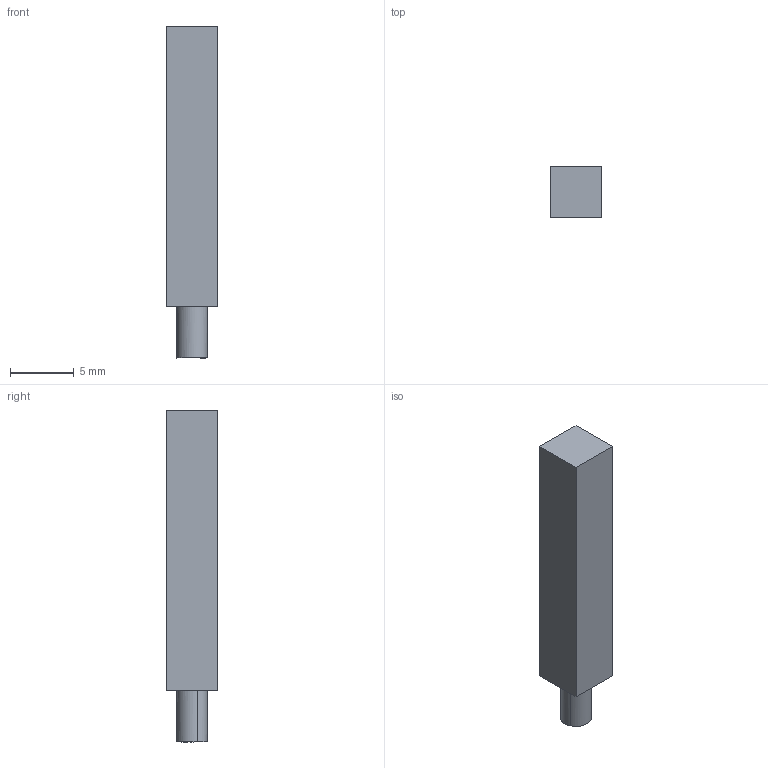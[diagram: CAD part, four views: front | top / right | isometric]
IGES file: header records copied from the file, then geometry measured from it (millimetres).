
Start section: Comment
Global section: file name: IFFM 04xxx01_O1L.igs; native system:  By Spatial Corp.; preprocessor: XPlus GENERIC/IGES 3.0; author: Author; organization: Title; date: 20060328.131810; units: inch
Bounding box: 4 x 4 x 26 mm (x, y, z)
Surface area: 414.6 mm2 (no closed solid volume)
Topology: 0 solids, 0 shells, 12 faces, 48 edges, 48 vertices
Faces by surface type: bspline 12
